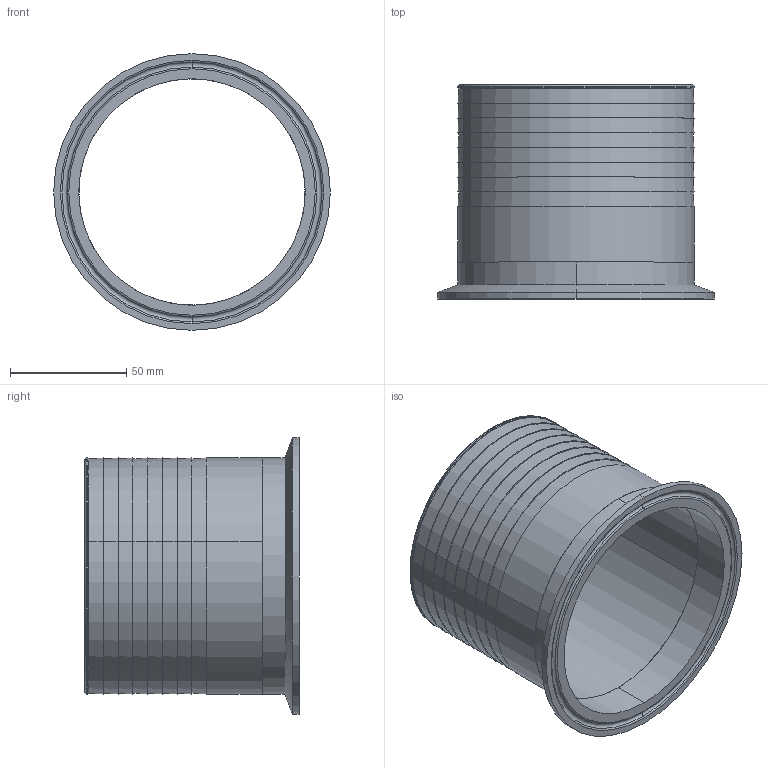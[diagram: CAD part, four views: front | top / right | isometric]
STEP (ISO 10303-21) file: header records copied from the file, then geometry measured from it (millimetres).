
FILE_DESCRIPTION (( 'STEP AP203' ), '1' );
FILE_NAME ('EG14RT4.0.STEP', '2018-05-03T14:04:30', ( 'vneprd' ), ( 'Microsoft' ), 'SwSTEP 2.0', 'SolidWorks 2014', '' );
FILE_SCHEMA (( 'CONFIG_CONTROL_DESIGN' ));
Length unit declared in the file: inch
Products named in the file (3): EG2CS4.0; V14RH4.0; EG14RT4.0
Assembly tree (2 placements, depth 2):
  EG14RT4.0
    EG2CS4.0
    V14RH4.0
Bounding box: 118.92 x 92.08 x 118.92 mm (x, y, z)
Volume: 69872.6 mm3; surface area: 66667.4 mm2
Topology: 2 solids, 2 shells, 53 faces, 106 edges, 66 vertices
Faces by surface type: cone 18, plane 13, cylinder 12, torus 10
Entity records: 1723 total; most frequent: DIRECTION 298, CARTESIAN_POINT 230, ORIENTED_EDGE 212, AXIS2_PLACEMENT_3D 134, EDGE_CURVE 106, CIRCLE 76, EDGE_LOOP 66, VERTEX_POINT 66
